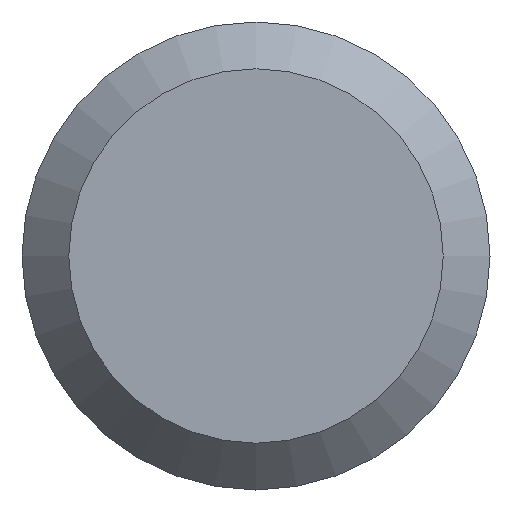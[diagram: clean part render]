
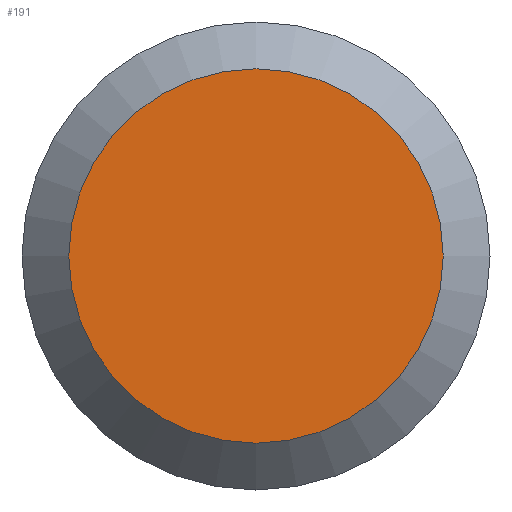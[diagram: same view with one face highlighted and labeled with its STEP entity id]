
A CAD part, left-side view. The second image highlights one B-rep face of the part: STEP entity #191.
In plain terms, the highlighted planar face has unit normal (-1, 0, 0).
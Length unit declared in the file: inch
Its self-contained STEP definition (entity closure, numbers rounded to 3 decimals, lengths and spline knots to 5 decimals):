
#12 = PLANE ( 'NONE',  #16 ) ;
#15 = EDGE_LOOP ( 'NONE', ( #43 ) ) ;
#16 = AXIS2_PLACEMENT_3D ( 'NONE', #39, #230, #190 ) ;
#39 = CARTESIAN_POINT ( 'NONE',  ( 0., 0.0625, 0. ) ) ;
#43 = ORIENTED_EDGE ( 'NONE', *, *, #159, .T. ) ;
#50 = CIRCLE ( 'NONE', #163, 0.05 ) ;
#56 = CARTESIAN_POINT ( 'NONE',  ( 0., 0., 0. ) ) ;
#80 = DIRECTION ( 'NONE',  ( 0., 0., -1. ) ) ;
#159 = EDGE_CURVE ( 'NONE', #226, #226, #50, .T. ) ;
#163 = AXIS2_PLACEMENT_3D ( 'NONE', #56, #215, #80 ) ;
#190 = DIRECTION ( 'NONE',  ( 0., 0., -1. ) ) ;
#191 = ADVANCED_FACE ( 'NONE', ( #192 ), #12, .F. ) ;
#192 = FACE_OUTER_BOUND ( 'NONE', #15, .T. ) ;
#215 = DIRECTION ( 'NONE',  ( -1., 0., 0. ) ) ;
#226 = VERTEX_POINT ( 'NONE', #231 ) ;
#230 = DIRECTION ( 'NONE',  ( 1., 0., 0. ) ) ;
#231 = CARTESIAN_POINT ( 'NONE',  ( 0., 0., -0.05 ) ) ;
